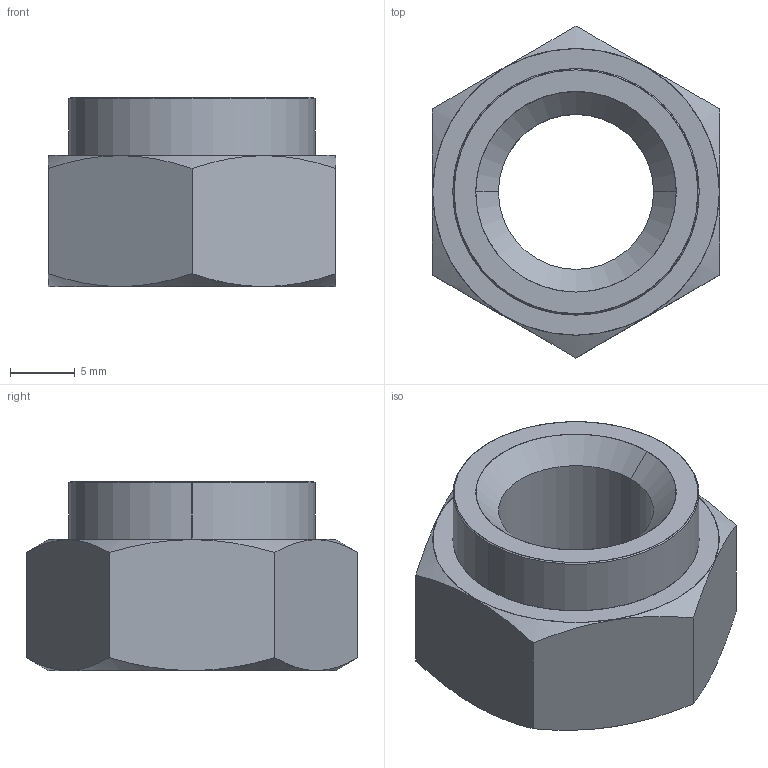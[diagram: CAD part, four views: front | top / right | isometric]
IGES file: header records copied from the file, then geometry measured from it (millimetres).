
Start section: SolidWorks IGES file using analytic representation for surfaces
Global section: file name: C:\Users\liam_\OneDrive\Desktop\Work\Mat Davis Pending 20181125\automotion\P SERIES\P0827.ZP_v2\P0827.ZP_v2_20181231_IGES\P0827.100-08G-ZP.igs; native system: SolidWorks 2017; preprocessor: SolidWorks 2017; author: liam_; date: 181231.111125; units: millimetre
Bounding box: 22.22 x 25.66 x 14.66 mm (x, y, z)
Surface area: 2118 mm2 (no closed solid volume)
Topology: 0 solids, 0 shells, 23 faces, 448 edges, 448 vertices
Faces by surface type: revolution 14, bspline 9
